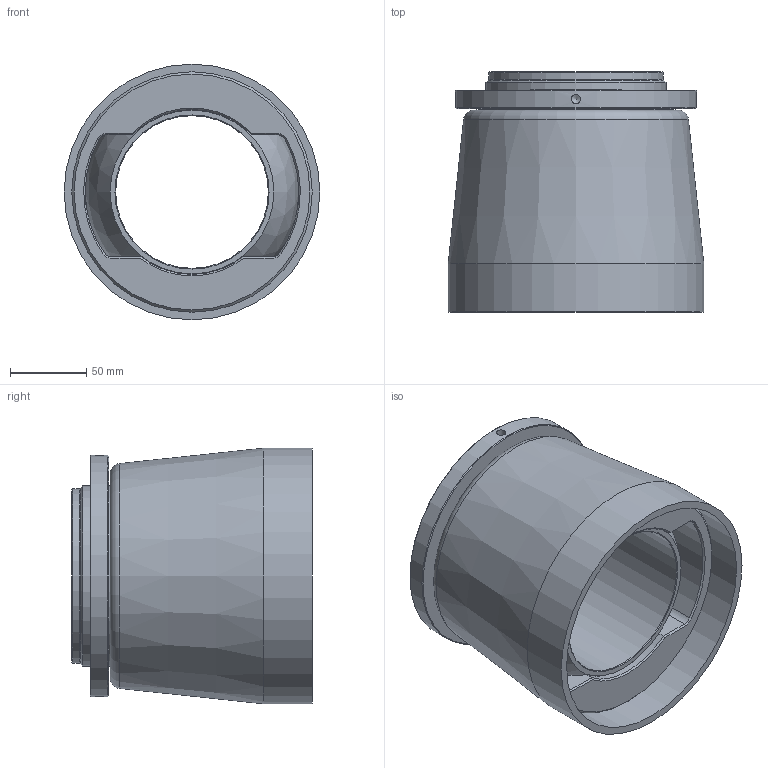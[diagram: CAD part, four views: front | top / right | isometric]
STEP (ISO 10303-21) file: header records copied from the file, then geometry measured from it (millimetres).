
FILE_DESCRIPTION(('STEP AP214'),'1');
FILE_NAME('Z:/J/Jp3/Palier/Palier-type1/3D TopSolid 2011/Serie 10.xx.xx/10.14.xx/10.14.10.step','2012-02-23T13:33:02',(' '),(' '),'Spatial InterOp 3D',' ',' ');
FILE_SCHEMA(('automotive_design'));
Length unit declared in the file: metre
Products named in the file (4): boitier 10; rotule 10; ecrou ; hunsing
Bounding box: 167.5 x 157.35 x 167.5 mm (x, y, z)
Volume: 1401506.1 mm3; surface area: 365258.8 mm2
Topology: 4 solids, 4 shells, 67 faces, 142 edges, 85 vertices
Faces by surface type: cylinder 22, cone 21, plane 19, torus 3, sphere 2
Full cylindrical faces by diameter (mm): 6 x2, 100 x1, 109 x1, 110 x1, 114 x1, 118 x4, 157.5 x2, 158 x1, 167.5 x1
Entity records: 2353 total; most frequent: CARTESIAN_POINT 445, DIRECTION 298, ORIENTED_EDGE 204, AXIS2_PLACEMENT_3D 135, EDGE_LOOP 110, EDGE_CURVE 102, FACE_OUTER_BOUND 86, VERTEX_POINT 80
